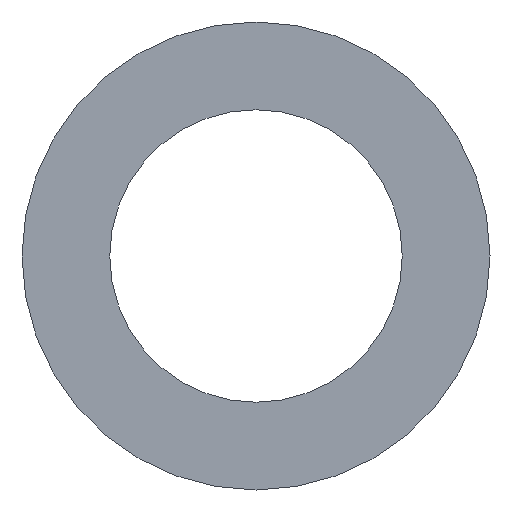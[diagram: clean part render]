
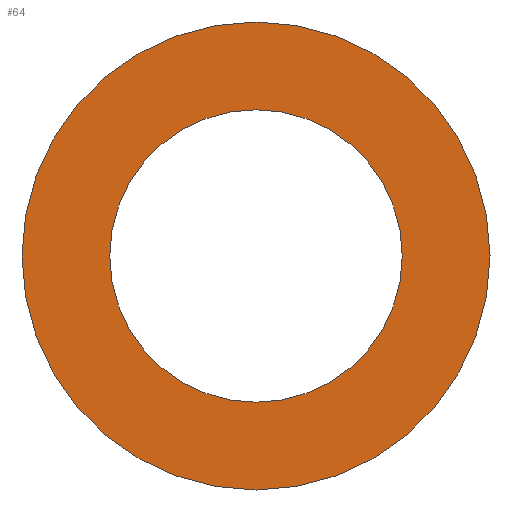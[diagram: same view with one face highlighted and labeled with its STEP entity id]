
A CAD part, front view. The second image highlights one B-rep face of the part: STEP entity #64.
In plain terms, the highlighted planar face has unit normal (0, -1, 0).
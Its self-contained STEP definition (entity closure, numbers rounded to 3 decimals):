
#16=FACE_BOUND('',#28,.T.);
#18=PLANE('',#86);
#22=FACE_OUTER_BOUND('',#27,.T.);
#27=EDGE_LOOP('',(#57));
#28=EDGE_LOOP('',(#58));
#34=CIRCLE('',#81,5.);
#36=CIRCLE('',#84,8.);
#38=VERTEX_POINT('',#111);
#40=VERTEX_POINT('',#117);
#43=EDGE_CURVE('',#38,#38,#34,.T.);
#46=EDGE_CURVE('',#40,#40,#36,.T.);
#57=ORIENTED_EDGE('',*,*,#46,.F.);
#58=ORIENTED_EDGE('',*,*,#43,.F.);
#64=ADVANCED_FACE('',(#22,#16),#18,.F.);
#81=AXIS2_PLACEMENT_3D('',#113,#94,#95);
#84=AXIS2_PLACEMENT_3D('',#119,#101,#102);
#86=AXIS2_PLACEMENT_3D('',#121,#105,#106);
#94=DIRECTION('center_axis',(0.,-1.,0.));
#95=DIRECTION('ref_axis',(1.,0.,0.));
#101=DIRECTION('center_axis',(0.,1.,0.));
#102=DIRECTION('ref_axis',(1.,0.,0.));
#105=DIRECTION('center_axis',(0.,1.,0.));
#106=DIRECTION('ref_axis',(1.,0.,0.));
#111=CARTESIAN_POINT('',(-5.,0.,0.));
#113=CARTESIAN_POINT('Origin',(0.,0.,0.));
#117=CARTESIAN_POINT('',(-8.,0.,0.));
#119=CARTESIAN_POINT('Origin',(0.,0.,0.));
#121=CARTESIAN_POINT('Origin',(0.,0.,0.));
